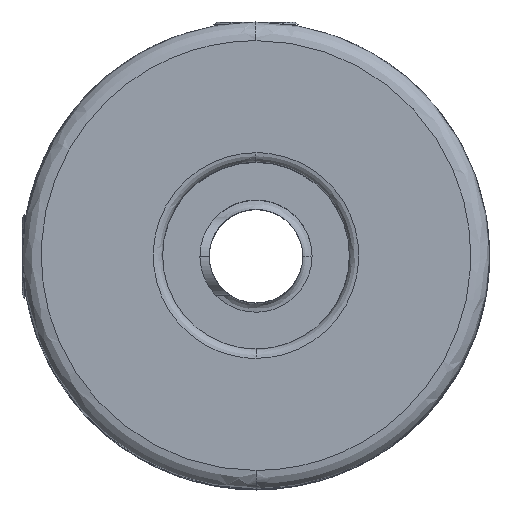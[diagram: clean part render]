
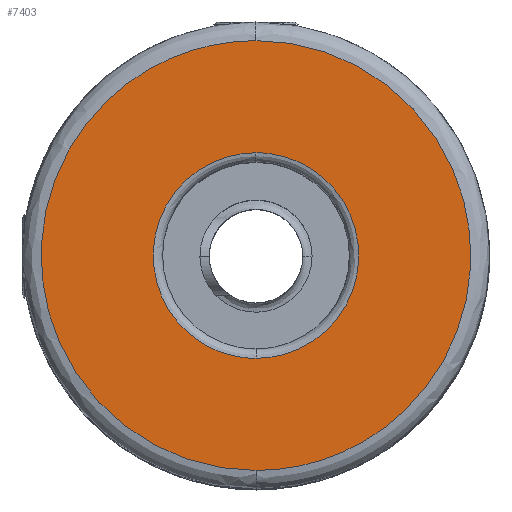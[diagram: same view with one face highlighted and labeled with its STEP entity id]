
A CAD part, top view. The second image highlights one B-rep face of the part: STEP entity #7403.
In plain terms, the highlighted planar face has unit normal (0, 0, 1).
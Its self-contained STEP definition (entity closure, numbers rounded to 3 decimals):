
#1163 = CARTESIAN_POINT ( 'NONE',  ( 1.121, -3.505, 22.552 ) ) ;
#1186 = PLANE ( 'NONE',  #1212 ) ;
#1188 = FACE_OUTER_BOUND ( 'NONE', #7412, .T. ) ;
#1189 = FACE_BOUND ( 'NONE', #7384, .T. ) ;
#1200 = CARTESIAN_POINT ( 'NONE',  ( 1.121, 7.495, 22.552 ) ) ;
#1201 = CARTESIAN_POINT ( 'NONE',  ( 1.121, -3.505, 22.552 ) ) ;
#1202 = CARTESIAN_POINT ( 'NONE',  ( 1.121, 13.495, 22.552 ) ) ;
#1203 = CARTESIAN_POINT ( 'NONE',  ( -21.879, 13.495, 22.552 ) ) ;
#1204 = CARTESIAN_POINT ( 'NONE',  ( -21.879, -9.505, 22.552 ) ) ;
#1205 = CARTESIAN_POINT ( 'NONE',  ( 1.121, -9.505, 22.552 ) ) ;
#1206 = CARTESIAN_POINT ( 'NONE',  ( 1.121, -9.505, 22.552 ) ) ;
#1207 =( BOUNDED_CURVE ( )  B_SPLINE_CURVE ( 3, ( #1205, #1204, #1203, #1202 ),
 .UNSPECIFIED., .F., .T. ) 
 B_SPLINE_CURVE_WITH_KNOTS ( ( 4, 4 ),
 ( 0., 1. ),
 .UNSPECIFIED. ) 
 CURVE ( )  GEOMETRIC_REPRESENTATION_ITEM ( )  RATIONAL_B_SPLINE_CURVE ( ( 1., 0.333, 0.333, 1. ) ) 
 REPRESENTATION_ITEM ( '' )  );
#1209 = DIRECTION ( 'NONE',  ( 0., 1., 0. ) ) ;
#1210 = DIRECTION ( 'NONE',  ( 0., 0., -1. ) ) ;
#1211 = CARTESIAN_POINT ( 'NONE',  ( 1.121, 1.995, 22.552 ) ) ;
#1212 = AXIS2_PLACEMENT_3D ( 'NONE', #1211, #1210, #1209 ) ;
#1231 =( BOUNDED_CURVE ( )  B_SPLINE_CURVE ( 3, ( #1271, #1270, #1269, #1268 ),
 .UNSPECIFIED., .F., .T. ) 
 B_SPLINE_CURVE_WITH_KNOTS ( ( 4, 4 ),
 ( 0., 1. ),
 .UNSPECIFIED. ) 
 CURVE ( )  GEOMETRIC_REPRESENTATION_ITEM ( )  RATIONAL_B_SPLINE_CURVE ( ( 1., 0.333, 0.333, 1. ) ) 
 REPRESENTATION_ITEM ( '' )  );
#1262 = CARTESIAN_POINT ( 'NONE',  ( 1.121, -9.505, 22.552 ) ) ;
#1263 = CARTESIAN_POINT ( 'NONE',  ( 24.121, -9.505, 22.552 ) ) ;
#1264 = CARTESIAN_POINT ( 'NONE',  ( 24.121, 13.495, 22.552 ) ) ;
#1265 = CARTESIAN_POINT ( 'NONE',  ( 1.121, 13.495, 22.552 ) ) ;
#1266 =( BOUNDED_CURVE ( )  B_SPLINE_CURVE ( 3, ( #1265, #1264, #1263, #1262 ),
 .UNSPECIFIED., .F., .T. ) 
 B_SPLINE_CURVE_WITH_KNOTS ( ( 4, 4 ),
 ( 0., 1. ),
 .UNSPECIFIED. ) 
 CURVE ( )  GEOMETRIC_REPRESENTATION_ITEM ( )  RATIONAL_B_SPLINE_CURVE ( ( 1., 0.333, 0.333, 1. ) ) 
 REPRESENTATION_ITEM ( '' )  );
#1268 = CARTESIAN_POINT ( 'NONE',  ( 1.121, -3.505, 22.552 ) ) ;
#1269 = CARTESIAN_POINT ( 'NONE',  ( -9.879, -3.505, 22.552 ) ) ;
#1270 = CARTESIAN_POINT ( 'NONE',  ( -9.879, 7.495, 22.552 ) ) ;
#1271 = CARTESIAN_POINT ( 'NONE',  ( 1.121, 7.495, 22.552 ) ) ;
#1359 = CARTESIAN_POINT ( 'NONE',  ( 1.121, 13.495, 22.552 ) ) ;
#7384 = EDGE_LOOP ( 'NONE', ( #7387, #7391 ) ) ;
#7386 = ORIENTED_EDGE ( 'NONE', *, *, #7404, .F. ) ;
#7387 = ORIENTED_EDGE ( 'NONE', *, *, #7388, .F. ) ;
#7388 = EDGE_CURVE ( 'NONE', #7389, #7390, #9503, .T. ) ;
#7389 = VERTEX_POINT ( 'NONE', #1201 ) ;
#7390 = VERTEX_POINT ( 'NONE', #1200 ) ;
#7391 = ORIENTED_EDGE ( 'NONE', *, *, #7421, .F. ) ;
#7403 = ADVANCED_FACE ( 'NONE', ( #1189, #1188 ), #1186, .F. ) ;
#7404 = EDGE_CURVE ( 'NONE', #7405, #7462, #1207, .T. ) ;
#7405 = VERTEX_POINT ( 'NONE', #1206 ) ;
#7412 = EDGE_LOOP ( 'NONE', ( #7386, #7422 ) ) ;
#7421 = EDGE_CURVE ( 'NONE', #7390, #7389, #1231, .T. ) ;
#7422 = ORIENTED_EDGE ( 'NONE', *, *, #7423, .F. ) ;
#7423 = EDGE_CURVE ( 'NONE', #7462, #7405, #1266, .T. ) ;
#7462 = VERTEX_POINT ( 'NONE', #1359 ) ;
#9503 =( BOUNDED_CURVE ( )  B_SPLINE_CURVE ( 3, ( #1163, #9515, #9520, #9524 ),
 .UNSPECIFIED., .F., .F. ) 
 B_SPLINE_CURVE_WITH_KNOTS ( ( 4, 4 ),
 ( 0., 1. ),
 .UNSPECIFIED. ) 
 CURVE ( )  GEOMETRIC_REPRESENTATION_ITEM ( )  RATIONAL_B_SPLINE_CURVE ( ( 1., 0.333, 0.333, 1. ) ) 
 REPRESENTATION_ITEM ( '' )  );
#9515 = CARTESIAN_POINT ( 'NONE',  ( 12.121, -3.505, 22.552 ) ) ;
#9520 = CARTESIAN_POINT ( 'NONE',  ( 12.121, 7.495, 22.552 ) ) ;
#9524 = CARTESIAN_POINT ( 'NONE',  ( 1.121, 7.495, 22.552 ) ) ;
